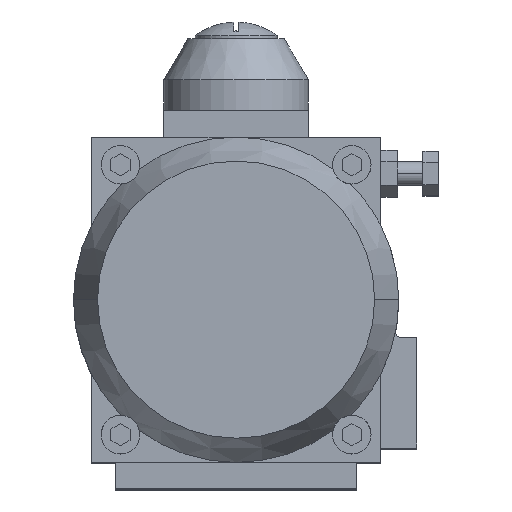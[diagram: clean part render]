
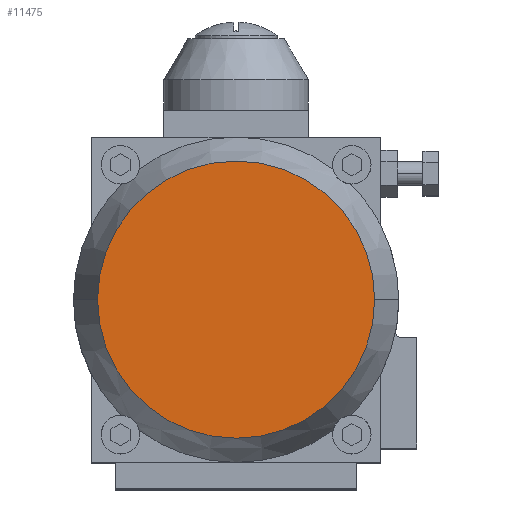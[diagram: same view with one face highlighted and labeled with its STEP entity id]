
A CAD part, top view. The second image highlights one B-rep face of the part: STEP entity #11475.
In plain terms, the highlighted planar face has unit normal (0, 0, 1).
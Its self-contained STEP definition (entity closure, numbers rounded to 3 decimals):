
#10446=CARTESIAN_POINT('',(0.,0.,152.));
#10447=DIRECTION('',(0.,0.,-1.));
#10448=DIRECTION('',(-1.,0.,0.));
#10449=AXIS2_PLACEMENT_3D('',#10446,#10447,#10448);
#10451=CARTESIAN_POINT('',(0.,0.,152.));
#10452=DIRECTION('',(0.,0.,-1.));
#10453=DIRECTION('',(1.,0.,0.));
#10454=AXIS2_PLACEMENT_3D('',#10451,#10452,#10453);
#10684=CARTESIAN_POINT('',(-57.5,0.,152.));
#10685=CARTESIAN_POINT('',(57.5,0.,152.));
#10686=VERTEX_POINT('',#10684);
#10687=VERTEX_POINT('',#10685);
#11466=CARTESIAN_POINT('',(0.,0.,152.));
#11467=DIRECTION('',(0.,0.,1.));
#11468=DIRECTION('',(1.,0.,0.));
#11469=AXIS2_PLACEMENT_3D('',#11466,#11467,#11468);
#11470=PLANE('',#11469);
#11471=ORIENTED_EDGE('',*,*,#11190,.T.);
#11472=ORIENTED_EDGE('',*,*,#11428,.T.);
#11473=EDGE_LOOP('',(#11471,#11472));
#11474=FACE_OUTER_BOUND('',#11473,.F.);
#11475=ADVANCED_FACE('',(#11474),#11470,.T.);
#10450=CIRCLE('',#10449,57.5);
#10455=CIRCLE('',#10454,57.5);
#11190=EDGE_CURVE('',#10686,#10687,#10450,.T.);
#11428=EDGE_CURVE('',#10687,#10686,#10455,.T.);
